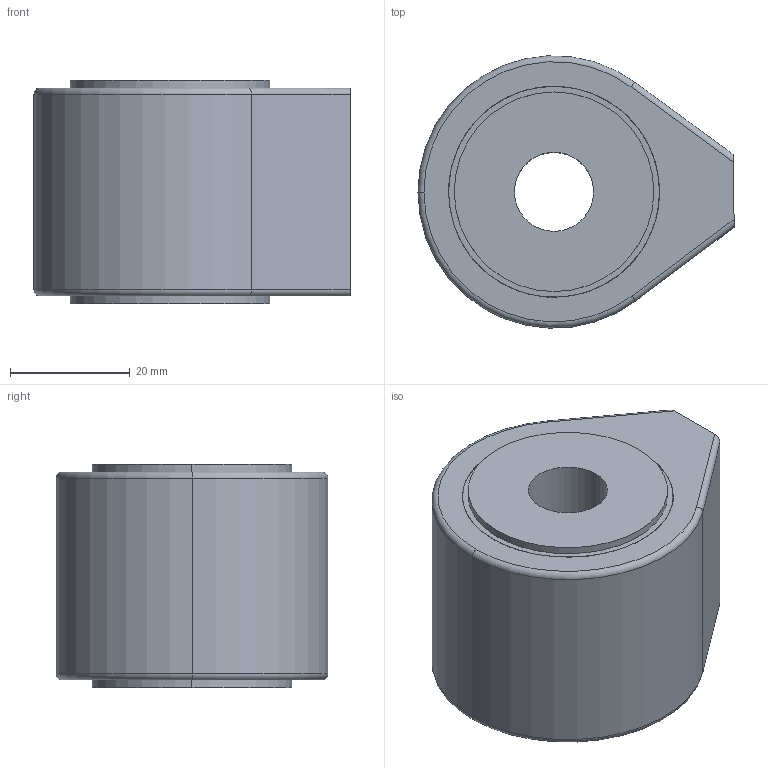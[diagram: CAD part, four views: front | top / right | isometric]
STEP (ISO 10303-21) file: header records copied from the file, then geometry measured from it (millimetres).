
FILE_DESCRIPTION (( 'STEP AP203' ), '1' );
FILE_NAME ('DW-TRHT12-XXXX Triggy HT12.STEP', '2022-02-25T15:31:39', ( '' ), ( '' ), 'SwSTEP 2.0', 'SolidWorks 2021', '' );
FILE_SCHEMA (( 'CONFIG_CONTROL_DESIGN' ));
Length unit declared in the file: millimetre
Products named in the file (4): DW-TRENXX-0000-Enrobage simplifie TRIGGYS_HT12; DW-TRBAXX-XXXX- BAGUE SIMPLIFIEE_HT12; DW-TRHT12-XXXX Triggy HT12; DW-TRENXX-XXXX- ENTRETOISE SIMPLIFIEE_HT12
Assembly tree (3 placements, depth 2):
  DW-TRHT12-XXXX Triggy HT12
    DW-TRENXX-XXXX- ENTRETOISE SIMPLIFIEE_HT12
    DW-TRBAXX-XXXX- BAGUE SIMPLIFIEE_HT12
    DW-TRENXX-0000-Enrobage simplifie TRIGGYS_HT12
Bounding box: 52.73 x 45.36 x 37.2 mm (x, y, z)
Volume: 59077.3 mm3; surface area: 25220.2 mm2
Topology: 3 solids, 3 shells, 205 faces, 546 edges, 362 vertices
Faces by surface type: bspline 97, plane 88, cylinder 16, torus 4
Entity records: 7477 total; most frequent: CARTESIAN_POINT 2609, ORIENTED_EDGE 1092, DIRECTION 603, EDGE_CURVE 546, VERTEX_POINT 362, LINE 307, VECTOR 307, EDGE_LOOP 226
